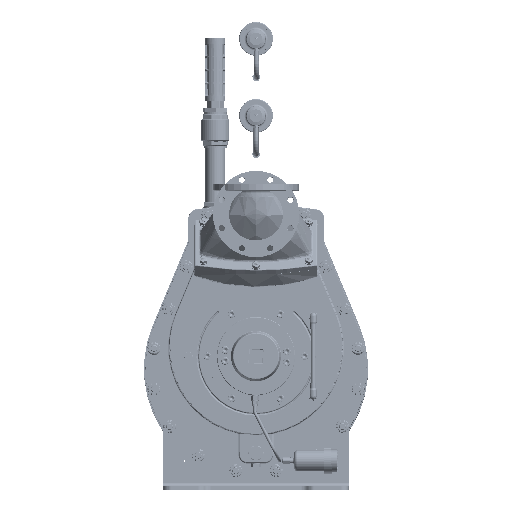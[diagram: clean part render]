
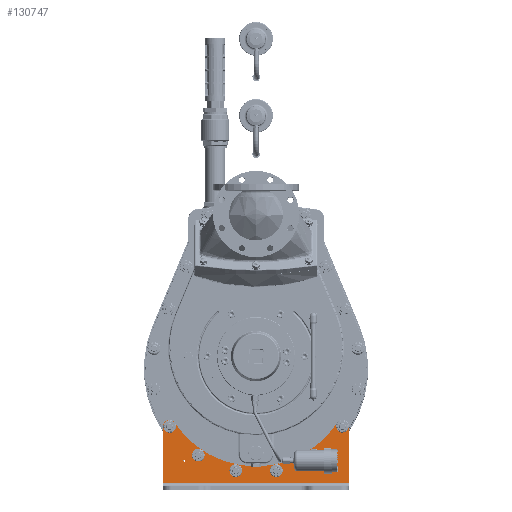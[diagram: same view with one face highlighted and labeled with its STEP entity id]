
A CAD part, top view. The second image highlights one B-rep face of the part: STEP entity #130747.
In plain terms, the highlighted planar face has unit normal (0, 0, 1) as drawn and (1, 0, 0) by its records, which use the part's own axes.
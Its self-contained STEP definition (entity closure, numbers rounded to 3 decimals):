
#16258=FACE_BOUND('',#27603,.T.);
#16259=FACE_BOUND('',#27604,.T.);
#16260=FACE_BOUND('',#27605,.T.);
#16261=FACE_BOUND('',#27606,.T.);
#16262=FACE_BOUND('',#27607,.T.);
#16263=FACE_BOUND('',#27608,.T.);
#16264=FACE_BOUND('',#27609,.T.);
#16265=FACE_BOUND('',#27610,.T.);
#17182=PLANE('',#140155);
#19843=FACE_OUTER_BOUND('',#27602,.T.);
#27602=EDGE_LOOP('',(#89244,#89245,#89246,#89247,#89248,#89249,#89250,#89251,
#89252,#89253));
#27603=EDGE_LOOP('',(#89254));
#27604=EDGE_LOOP('',(#89255));
#27605=EDGE_LOOP('',(#89256));
#27606=EDGE_LOOP('',(#89257));
#27607=EDGE_LOOP('',(#89258));
#27608=EDGE_LOOP('',(#89259));
#27609=EDGE_LOOP('',(#89260));
#27610=EDGE_LOOP('',(#89261));
#36284=LINE('',#181314,#44108);
#36286=LINE('',#181320,#44110);
#36287=LINE('',#181324,#44111);
#36288=LINE('',#181332,#44112);
#36289=LINE('',#181335,#44113);
#44108=VECTOR('',#151269,10.);
#44110=VECTOR('',#151275,10.);
#44111=VECTOR('',#151278,10.);
#44112=VECTOR('',#151285,10.);
#44113=VECTOR('',#151288,10.);
#51934=CIRCLE('',#140156,15.);
#51935=CIRCLE('',#140157,15.);
#51936=CIRCLE('',#140158,231.);
#51937=CIRCLE('',#140159,15.);
#51938=CIRCLE('',#140160,15.);
#51939=CIRCLE('',#140161,2.067);
#51940=CIRCLE('',#140162,2.067);
#51941=CIRCLE('',#140163,9.);
#51942=CIRCLE('',#140164,9.);
#51943=CIRCLE('',#140165,9.);
#51944=CIRCLE('',#140166,9.);
#51945=CIRCLE('',#140167,9.);
#51946=CIRCLE('',#140168,9.);
#56772=VERTEX_POINT('',#181311);
#56773=VERTEX_POINT('',#181313);
#56775=VERTEX_POINT('',#181319);
#56776=VERTEX_POINT('',#181321);
#56777=VERTEX_POINT('',#181323);
#56778=VERTEX_POINT('',#181325);
#56779=VERTEX_POINT('',#181327);
#56780=VERTEX_POINT('',#181329);
#56781=VERTEX_POINT('',#181331);
#56782=VERTEX_POINT('',#181333);
#56783=VERTEX_POINT('',#181336);
#56784=VERTEX_POINT('',#181338);
#56785=VERTEX_POINT('',#181340);
#56786=VERTEX_POINT('',#181342);
#56787=VERTEX_POINT('',#181344);
#56788=VERTEX_POINT('',#181346);
#56789=VERTEX_POINT('',#181348);
#56790=VERTEX_POINT('',#181350);
#69454=EDGE_CURVE('',#56772,#56773,#36284,.T.);
#69457=EDGE_CURVE('',#56775,#56772,#36286,.T.);
#69458=EDGE_CURVE('',#56776,#56775,#51934,.T.);
#69459=EDGE_CURVE('',#56777,#56776,#36287,.T.);
#69460=EDGE_CURVE('',#56778,#56777,#51935,.T.);
#69461=EDGE_CURVE('',#56778,#56779,#51936,.T.);
#69462=EDGE_CURVE('',#56780,#56779,#51937,.T.);
#69463=EDGE_CURVE('',#56781,#56780,#36288,.T.);
#69464=EDGE_CURVE('',#56782,#56781,#51938,.T.);
#69465=EDGE_CURVE('',#56773,#56782,#36289,.T.);
#69466=EDGE_CURVE('',#56783,#56783,#51939,.T.);
#69467=EDGE_CURVE('',#56784,#56784,#51940,.T.);
#69468=EDGE_CURVE('',#56785,#56785,#51941,.T.);
#69469=EDGE_CURVE('',#56786,#56786,#51942,.T.);
#69470=EDGE_CURVE('',#56787,#56787,#51943,.T.);
#69471=EDGE_CURVE('',#56788,#56788,#51944,.T.);
#69472=EDGE_CURVE('',#56789,#56789,#51945,.T.);
#69473=EDGE_CURVE('',#56790,#56790,#51946,.T.);
#89244=ORIENTED_EDGE('',*,*,#69454,.F.);
#89245=ORIENTED_EDGE('',*,*,#69457,.F.);
#89246=ORIENTED_EDGE('',*,*,#69458,.F.);
#89247=ORIENTED_EDGE('',*,*,#69459,.F.);
#89248=ORIENTED_EDGE('',*,*,#69460,.F.);
#89249=ORIENTED_EDGE('',*,*,#69461,.T.);
#89250=ORIENTED_EDGE('',*,*,#69462,.F.);
#89251=ORIENTED_EDGE('',*,*,#69463,.F.);
#89252=ORIENTED_EDGE('',*,*,#69464,.F.);
#89253=ORIENTED_EDGE('',*,*,#69465,.F.);
#89254=ORIENTED_EDGE('',*,*,#69466,.T.);
#89255=ORIENTED_EDGE('',*,*,#69467,.T.);
#89256=ORIENTED_EDGE('',*,*,#69468,.T.);
#89257=ORIENTED_EDGE('',*,*,#69469,.T.);
#89258=ORIENTED_EDGE('',*,*,#69470,.T.);
#89259=ORIENTED_EDGE('',*,*,#69471,.T.);
#89260=ORIENTED_EDGE('',*,*,#69472,.T.);
#89261=ORIENTED_EDGE('',*,*,#69473,.T.);
#130747=ADVANCED_FACE('',(#19843,#16258,#16259,#16260,#16261,#16262,#16263,
#16264,#16265),#17182,.T.);
#140155=AXIS2_PLACEMENT_3D('',#181318,#151273,#151274);
#140156=AXIS2_PLACEMENT_3D('',#181322,#151276,#151277);
#140157=AXIS2_PLACEMENT_3D('',#181326,#151279,#151280);
#140158=AXIS2_PLACEMENT_3D('',#181328,#151281,#151282);
#140159=AXIS2_PLACEMENT_3D('',#181330,#151283,#151284);
#140160=AXIS2_PLACEMENT_3D('',#181334,#151286,#151287);
#140161=AXIS2_PLACEMENT_3D('',#181337,#151289,#151290);
#140162=AXIS2_PLACEMENT_3D('',#181339,#151291,#151292);
#140163=AXIS2_PLACEMENT_3D('',#181341,#151293,#151294);
#140164=AXIS2_PLACEMENT_3D('',#181343,#151295,#151296);
#140165=AXIS2_PLACEMENT_3D('',#181345,#151297,#151298);
#140166=AXIS2_PLACEMENT_3D('',#181347,#151299,#151300);
#140167=AXIS2_PLACEMENT_3D('',#181349,#151301,#151302);
#140168=AXIS2_PLACEMENT_3D('',#181351,#151303,#151304);
#151269=DIRECTION('',(0.,0.,1.));
#151273=DIRECTION('center_axis',(1.,0.,0.));
#151274=DIRECTION('ref_axis',(0.,0.,-1.));
#151275=DIRECTION('',(0.,-1.,0.));
#151276=DIRECTION('center_axis',(-1.,0.,0.));
#151277=DIRECTION('ref_axis',(0.,0.707,-0.707));
#151278=DIRECTION('',(0.,0.,-1.));
#151279=DIRECTION('center_axis',(-1.,0.,0.));
#151280=DIRECTION('ref_axis',(0.,0.881,0.473));
#151281=DIRECTION('center_axis',(-1.,0.,0.));
#151282=DIRECTION('ref_axis',(0.,0.,-1.));
#151283=DIRECTION('center_axis',(-1.,0.,0.));
#151284=DIRECTION('ref_axis',(0.,0.881,-0.473));
#151285=DIRECTION('',(0.,0.,-1.));
#151286=DIRECTION('center_axis',(-1.,0.,0.));
#151287=DIRECTION('ref_axis',(0.,0.707,0.707));
#151288=DIRECTION('',(0.,1.,0.));
#151289=DIRECTION('center_axis',(-1.,0.,0.));
#151290=DIRECTION('ref_axis',(0.,0.,
-1.));
#151291=DIRECTION('center_axis',(-1.,0.,0.));
#151292=DIRECTION('ref_axis',(0.,0.,
-1.));
#151293=DIRECTION('center_axis',(-1.,0.,0.));
#151294=DIRECTION('ref_axis',(0.,0.,-1.));
#151295=DIRECTION('center_axis',(-1.,0.,0.));
#151296=DIRECTION('ref_axis',(0.,0.,-1.));
#151297=DIRECTION('center_axis',(-1.,0.,0.));
#151298=DIRECTION('ref_axis',(0.,0.,-1.));
#151299=DIRECTION('center_axis',(-1.,0.,0.));
#151300=DIRECTION('ref_axis',(0.,0.,-1.));
#151301=DIRECTION('center_axis',(-1.,0.,0.));
#151302=DIRECTION('ref_axis',(0.,0.,-1.));
#151303=DIRECTION('center_axis',(-1.,0.,0.));
#151304=DIRECTION('ref_axis',(0.,0.,-1.));
#181311=CARTESIAN_POINT('',(8.,16.,-220.));
#181313=CARTESIAN_POINT('',(8.,16.,220.));
#181314=CARTESIAN_POINT('',(8.,16.,0.));
#181318=CARTESIAN_POINT('Origin',(8.,58.,0.));
#181319=CARTESIAN_POINT('',(8.,150.,-220.));
#181320=CARTESIAN_POINT('',(8.,0.,-220.));
#181321=CARTESIAN_POINT('',(8.,165.,-205.));
#181322=CARTESIAN_POINT('Origin',(8.,150.,-205.));
#181323=CARTESIAN_POINT('',(8.,165.,-204.988));
#181324=CARTESIAN_POINT('',(8.,165.,-220.));
#181325=CARTESIAN_POINT('',(8.,158.293,-192.489));
#181326=CARTESIAN_POINT('Origin',(8.,150.,-204.988));
#181327=CARTESIAN_POINT('',(8.,158.293,192.489));
#181328=CARTESIAN_POINT('Origin',(8.,286.,0.));
#181329=CARTESIAN_POINT('',(8.,165.,204.988));
#181330=CARTESIAN_POINT('Origin',(8.,150.,204.988));
#181331=CARTESIAN_POINT('',(8.,165.,205.));
#181332=CARTESIAN_POINT('',(8.,165.,-220.));
#181333=CARTESIAN_POINT('',(8.,150.,220.));
#181334=CARTESIAN_POINT('Origin',(8.,150.,205.));
#181335=CARTESIAN_POINT('',(8.,165.,220.));
#181336=CARTESIAN_POINT('',(8.,68.,-167.933));
#181337=CARTESIAN_POINT('Origin',(8.,68.,-170.));
#181338=CARTESIAN_POINT('',(8.,68.,172.067));
#181339=CARTESIAN_POINT('Origin',(8.,68.,170.));
#181340=CARTESIAN_POINT('',(8.,149.33,213.542));
#181341=CARTESIAN_POINT('Origin',(8.,149.33,204.542));
#181342=CARTESIAN_POINT('',(8.,44.727,56.992));
#181343=CARTESIAN_POINT('Origin',(8.,44.727,47.992));
#181344=CARTESIAN_POINT('',(8.,81.458,-127.67));
#181345=CARTESIAN_POINT('Origin',(8.,81.458,-136.67));
#181346=CARTESIAN_POINT('',(8.,149.33,-195.542));
#181347=CARTESIAN_POINT('Origin',(8.,149.33,-204.542));
#181348=CARTESIAN_POINT('',(8.,44.727,-38.992));
#181349=CARTESIAN_POINT('Origin',(8.,44.727,-47.992));
#181350=CARTESIAN_POINT('',(8.,81.458,145.67));
#181351=CARTESIAN_POINT('Origin',(8.,81.458,136.67));
